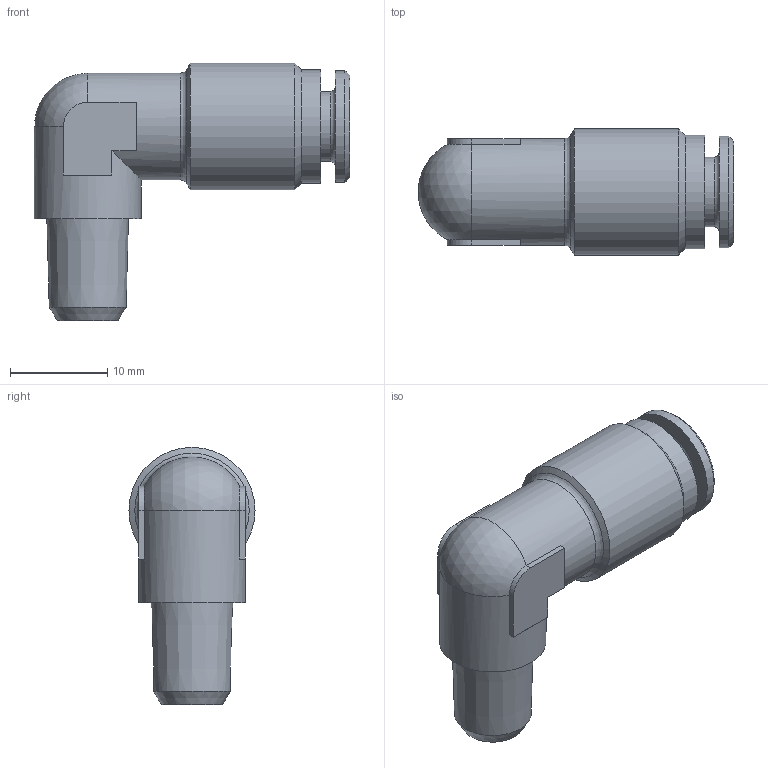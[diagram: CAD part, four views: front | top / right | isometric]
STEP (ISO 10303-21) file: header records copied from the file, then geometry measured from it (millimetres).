
FILE_DESCRIPTION(/* description */ (''),/* implementation_level */ '2;1');
FILE_NAME(/* name */ 'H190608_HDS019_6_M8X1K_04.05.17',/* time_stamp */ '2017-05-04T13:35:53+02:00',/* author */ (''),/* organization */ (''),/* preprocessor_version */ 'ST-DEVELOPER v16.5',/* originating_system */ 'HiCAD 2016 2102.1 Build 498',/* authorisation */ '');
FILE_SCHEMA (('AUTOMOTIVE_DESIGN { 1 0 10303 214 1 1 1 1 }'));
Length unit declared in the file: millimetre
Products named in the file (3): Root; RH190608; DR6-C_HDX_25.07.16
Assembly tree (2 placements, depth 2):
  Root
    RH190608
    DR6-C_HDX_25.07.16
Bounding box: 32.5 x 13 x 26.5 mm (x, y, z)
Volume: 3069.1 mm3; surface area: 3287.1 mm2
Topology: 2 solids, 2 shells, 60 faces, 131 edges, 78 vertices
Faces by surface type: plane 26, cylinder 15, cone 13, torus 5, sphere 1
Full cylindrical faces by diameter (mm): 4 x2, 6.2 x1, 6.3 x1, 7.2 x1, 9.9 x1, 10 x1, 10.3 x1, 11 x2, 11.5 x1, 11.7 x1, 13 x1
Entity records: 2498 total; most frequent: CARTESIAN_POINT 285, DIRECTION 278, PRESENTATION_STYLE_ASSIGNMENT 192, COLOUR_RGB 192, DRAUGHTING_PRE_DEFINED_CURVE_FONT 190, CURVE_STYLE 190, OVER_RIDING_STYLED_ITEM 190, ORIENTED_EDGE 190
